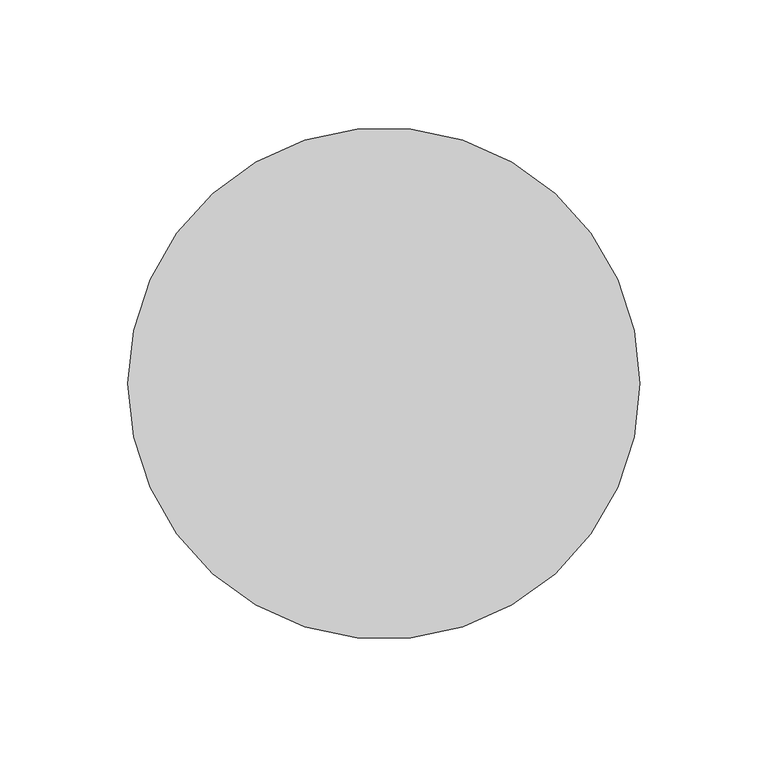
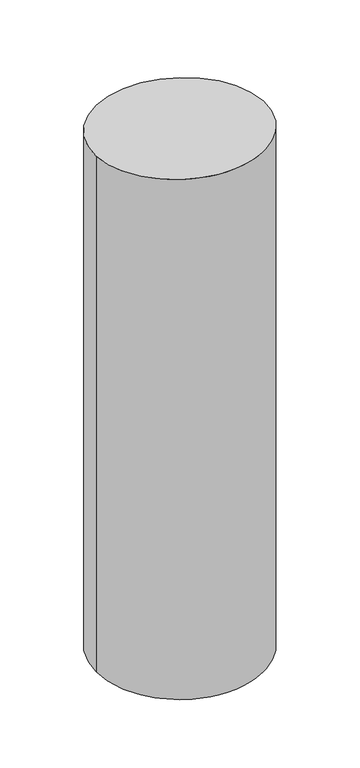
"""IFC4 building model written with IfcOpenShell, lengths in millimetres: member geometry, 矩形竖梃 : 圆瓦."""

from ifc_helpers import new_model, si_unit, frame, origin, origin_with_axes, place, context, project, spatial, circle_curve, ellipse_curve, source, transform, mapped, element, save
from ifc_brep_helpers import plane_surface, cylinder_surface, advanced_brep


def member_f34ff4b6(model_context):
    return source(origin(), model_context, "Body", "AdvancedBrep", [
        advanced_brep(
        [(100.0, 0.0, -653.4425751), (-100.0, 0.0, -653.4425751), (-100.0, 0.0, 0.0), (100.0, 0.0, 0.0)],
        [
            (0, 1, circle_curve(frame((0.0, 0.0, -653.4425751), z_axis=(0.0, 0.0, -1.0), x_axis=(1.0, 0.0, 0.0)), 100.0)),
            (1, 0, circle_curve(frame((0.0, 0.0, -653.4425751), z_axis=(0.0, 0.0, -1.0), x_axis=(1.0, 0.0, 0.0)), 100.0)),
            (2, 3, ellipse_curve(frame((0.0, 0.0, 0.0), z_axis=(0.0, -0.06182099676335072, -0.9980872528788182), x_axis=(0.0, -0.9980872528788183, 0.0618209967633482)), 100.1916413, 100.0)),
            (3, 0),
            (1, 2),
            (3, 2, ellipse_curve(frame((0.0, 0.0, 0.0), z_axis=(0.0, -0.06182099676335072, -0.9980872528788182), x_axis=(0.0, -0.9980872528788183, 0.0618209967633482)), 100.1916413, 100.0)),
        ],
        [
            plane_surface(frame((0.0, -100.0, -653.4425751), z_axis=(0.0, 0.0, -1.0), x_axis=(-1.0, 0.0, 0.0))),
            cylinder_surface(origin_with_axes(), 100.0),
            plane_surface(frame((-304.8, 0.0, 0.0), z_axis=(0.0, 0.06182099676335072, 0.9980872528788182), x_axis=(0.0, 0.9980872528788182, -0.06182099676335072))),
        ],
        [
            (0, [[1, 2]]),
            (1, [[3, 4, -2, 5]]),
            (1, [[6, -5, -1, -4]]),
            (2, [[-3, -6]]),
        ],
    ),
    ])


if __name__ == "__main__":
    model = new_model("IFC4")
    model_context = context("Model", 3, world=origin())
    ifc_project = project(units=[si_unit("LENGTHUNIT", "METRE", prefix="MILLI")], contexts=[model_context])
    site = spatial("IfcSite", under=ifc_project)
    building = spatial("IfcBuilding", under=site)
    placement = place(None, origin())
    member_shape = member_f34ff4b6(model_context)
    element("IfcMember", 1, ObjectType="矩形竖梃 : 圆瓦", at=placement, inside=building, context=model_context, shape_type="MappedRepresentation", body=[
        mapped(member_shape, transform((0.0, 0.0, 0.0), x_axis=(1.0, 0.0, 0.0), y_axis=(0.0, 1.0, 0.0), z_axis=(0.0, 0.0, 1.0))),
    ])
    save(model, "model.ifc")
